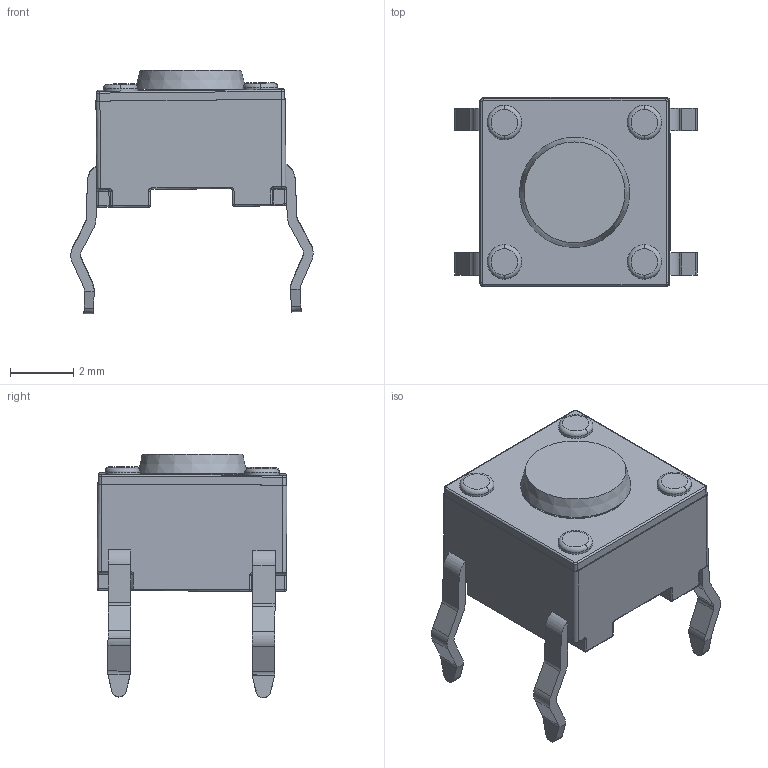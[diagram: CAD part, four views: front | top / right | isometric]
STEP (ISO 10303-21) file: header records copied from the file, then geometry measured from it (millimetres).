
FILE_DESCRIPTION(('FreeCAD Model'),'2;1');
FILE_NAME('C:/Users/Metaltex-99/Desktop/A06-4.3.stp', '2021-08-13T14:07:28',('Engenharia Metaltex'),('Metaltex'), 'Open CASCADE STEP processor 7.3','FreeCAD','Unknown');
FILE_SCHEMA(('AUTOMOTIVE_DESIGN { 1 0 10303 214 1 1 1 1 }'));
Length unit declared in the file: millimetre
Products named in the file (3): A06-4.3; Cilindro; Base
Assembly tree (2 placements, depth 2):
  A06-4.3
    Cilindro
    Base
Bounding box: 7.69 x 6.03 x 7.74 mm (x, y, z)
Volume: 131.2 mm3; surface area: 225.2 mm2
Topology: 2 solids, 2 shells, 294 faces, 716 edges, 408 vertices
Faces by surface type: cylinder 139, plane 90, torus 38, sphere 24, revolution 2, cone 1
Full cylindrical faces by diameter (mm): 3.46 x1
Entity records: 20696 total; most frequent: CARTESIAN_POINT 4354, DIRECTION 2863, LINE 1523, VECTOR 1523, ORIENTED_EDGE 1384, PCURVE 1384, DEFINITIONAL_REPRESENTATION 1384, EDGE_CURVE 692
